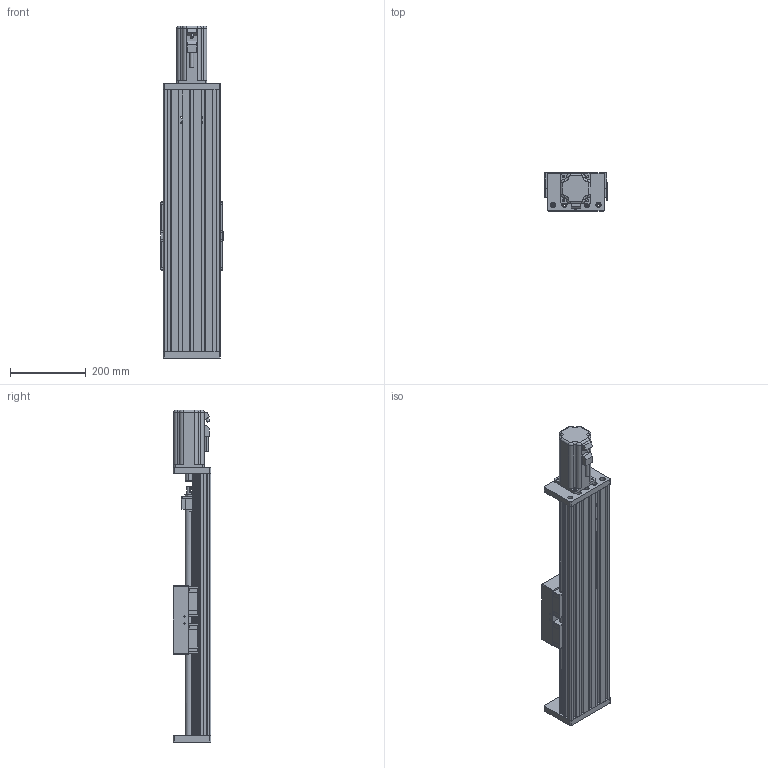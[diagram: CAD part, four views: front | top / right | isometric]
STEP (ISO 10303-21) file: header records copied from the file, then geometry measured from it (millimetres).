
FILE_DESCRIPTION (( 'STEP AP214' ), '1' );
FILE_NAME ('JYG150.STEP', '2019-11-09T00:55:30', ( '微软用户' ), ( '微软中国' ), 'SwSTEP 2.0', 'SolidWorks 2016', '' );
FILE_SCHEMA (( 'AUTOMOTIVE_DESIGN' ));
Length unit declared in the file: millimetre
Products named in the file (20): SFU2005-3蹟譫; CF-HGH20CA賑輸; HGR20絳寢; BK15+BF15; 30150_默认<按加工>; hexagon socket head cap screws gb_GB_FASTENER_SCREWS_HSHCS M6X10-N; JYG150; 20H; 80MSM041B-300-0.75KW; 賑雄啣2; 75嫖萇羲壽覜茼え; CFJY150耜啣; 萇儂假蚾啣; BK15; 撑圈-15; M15X1坶踡蹟譫; 长撑圈-15; ѹȦ-15; deep groove ball bearings gb_Rolling bearings 6002 GB 276-94
Assembly tree (30 placements, depth 3):
  JYG150
    30150_默认<按加工>
    BK15+BF15
    HGR20絳寢  x2
    CF-HGH20CA賑輸  x4
    SFU2005-3蹟譫
    BK15
      deep groove ball bearings gb_Rolling bearings 6002 GB 276-94  x2
      ѹȦ-15
      长撑圈-15
      M15X1坶踡蹟譫
      撑圈-15
      BK15
    萇儂假蚾啣
    CFJY150耜啣
    deep groove ball bearings gb_Rolling bearings 6002 GB 276-94
    75嫖萇羲壽覜茼え
    賑雄啣2
    80MSM041B-300-0.75KW
    20H
    hexagon socket head cap screws gb_GB_FASTENER_SCREWS_HSHCS M6X10-N  x6
Bounding box: 165 x 100 x 877.8 mm (x, y, z)
Volume: 4128051 mm3; surface area: 1335176.2 mm2
Topology: 33 solids, 33 shells, 1838 faces, 5520 edges, 3618 vertices
Faces by surface type: plane 801, cylinder 669, torus 192, sphere 96, cone 78, bspline 2
Entity records: 46645 total; most frequent: CARTESIAN_POINT 13730, ORIENTED_EDGE 6530, DIRECTION 6511, EDGE_CURVE 3265, AXIS2_PLACEMENT_3D 2384, VERTEX_POINT 2155, LINE 1743, VECTOR 1743
